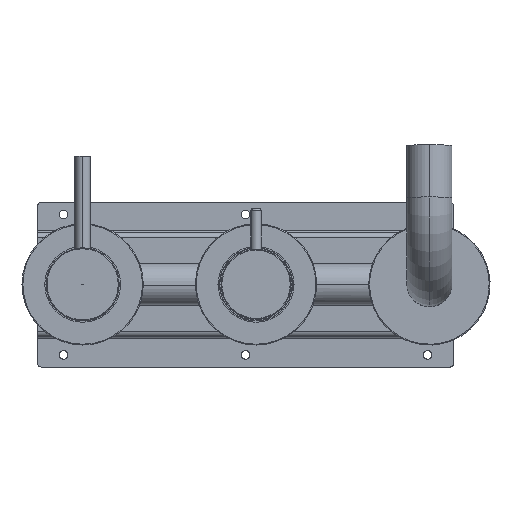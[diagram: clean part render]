
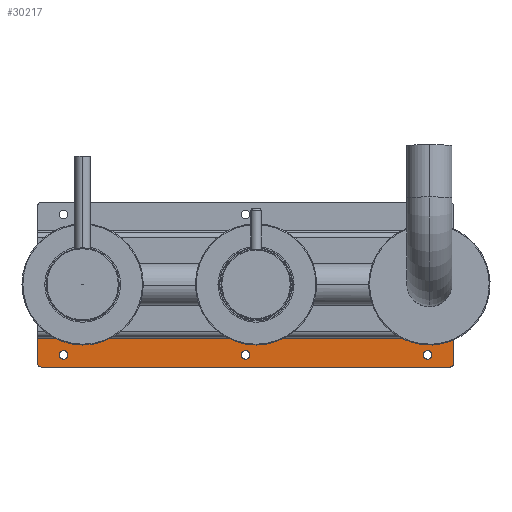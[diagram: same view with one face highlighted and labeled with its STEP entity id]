
A CAD part, top view. The second image highlights one B-rep face of the part: STEP entity #30217.
In plain terms, the highlighted planar face has unit normal (0, 0, 1).
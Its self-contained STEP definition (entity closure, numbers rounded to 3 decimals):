
#19 = ORIENTED_EDGE ( 'NONE', *, *, #3967, .F. ) ;
#1323 = FACE_OUTER_BOUND ( 'NONE', #7823, .T. ) ;
#1647 = CARTESIAN_POINT ( 'NONE',  ( -120., -45.5, -11. ) ) ;
#1711 = CARTESIAN_POINT ( 'NONE',  ( 120., -31., -11. ) ) ;
#2236 = DIRECTION ( 'NONE',  ( -1., 0., 0. ) ) ;
#2295 = DIRECTION ( 'NONE',  ( 1., 0., 0. ) ) ;
#3077 = VERTEX_POINT ( 'NONE', #25078 ) ;
#3355 = CARTESIAN_POINT ( 'NONE',  ( -118., -45.5, -11. ) ) ;
#3967 = EDGE_CURVE ( 'NONE', #21945, #42494, #16475, .T. ) ;
#4398 = EDGE_CURVE ( 'NONE', #44297, #15440, #10618, .T. ) ;
#4958 = AXIS2_PLACEMENT_3D ( 'NONE', #5080, #18503, #32336 ) ;
#5080 = CARTESIAN_POINT ( 'NONE',  ( 105., -40.5, -11. ) ) ;
#6646 = DIRECTION ( 'NONE',  ( 0., 0., 1. ) ) ;
#7258 = CARTESIAN_POINT ( 'NONE',  ( -120., 0., -11. ) ) ;
#7589 = EDGE_CURVE ( 'NONE', #21945, #41713, #41752, .T. ) ;
#7823 = EDGE_LOOP ( 'NONE', ( #19965, #25443, #13884, #9562, #31179, #19 ) ) ;
#7909 = VECTOR ( 'NONE', #28300, 1000. ) ;
#9562 = ORIENTED_EDGE ( 'NONE', *, *, #10346, .T. ) ;
#9934 = DIRECTION ( 'NONE',  ( 0., 0., 1. ) ) ;
#9940 = EDGE_CURVE ( 'NONE', #40404, #42494, #28525, .T. ) ;
#9997 = VECTOR ( 'NONE', #10661, 1000. ) ;
#10185 = AXIS2_PLACEMENT_3D ( 'NONE', #26117, #16293, #29952 ) ;
#10329 = DIRECTION ( 'NONE',  ( 1., 0., 0. ) ) ;
#10346 = EDGE_CURVE ( 'NONE', #21512, #40404, #36246, .T. ) ;
#10385 = ORIENTED_EDGE ( 'NONE', *, *, #13439, .F. ) ;
#10437 = CARTESIAN_POINT ( 'NONE',  ( -105., -40.5, -11. ) ) ;
#10618 = CIRCLE ( 'NONE', #13509, 2.5 ) ;
#10643 = CARTESIAN_POINT ( 'NONE',  ( -2.5, -40.5, -11. ) ) ;
#10661 = DIRECTION ( 'NONE',  ( 0., -1., 0. ) ) ;
#10814 = EDGE_CURVE ( 'NONE', #28570, #36099, #40597, .T. ) ;
#11579 = ORIENTED_EDGE ( 'NONE', *, *, #20487, .F. ) ;
#12651 = CARTESIAN_POINT ( 'NONE',  ( 0., 0., -11. ) ) ;
#12821 = CARTESIAN_POINT ( 'NONE',  ( -107.5, -40.5, -11. ) ) ;
#13439 = EDGE_CURVE ( 'NONE', #35938, #34169, #17268, .T. ) ;
#13509 = AXIS2_PLACEMENT_3D ( 'NONE', #13676, #20958, #27544 ) ;
#13676 = CARTESIAN_POINT ( 'NONE',  ( 0., -40.5, -11. ) ) ;
#13884 = ORIENTED_EDGE ( 'NONE', *, *, #31200, .T. ) ;
#14083 = DIRECTION ( 'NONE',  ( 0., 0., 1. ) ) ;
#14582 = VECTOR ( 'NONE', #10329, 1000. ) ;
#15307 = DIRECTION ( 'NONE',  ( 1., 0., 0. ) ) ;
#15440 = VERTEX_POINT ( 'NONE', #10643 ) ;
#15594 = EDGE_CURVE ( 'NONE', #15440, #44297, #33400, .T. ) ;
#15827 = VECTOR ( 'NONE', #2295, 1000. ) ;
#16271 = DIRECTION ( 'NONE',  ( 0., 0., -1. ) ) ;
#16293 = DIRECTION ( 'NONE',  ( 0., 0., 1. ) ) ;
#16475 = LINE ( 'NONE', #23767, #14582 ) ;
#16727 = AXIS2_PLACEMENT_3D ( 'NONE', #3355, #41712, #23831 ) ;
#17268 = CIRCLE ( 'NONE', #4958, 2.5 ) ;
#17398 = CARTESIAN_POINT ( 'NONE',  ( 120., 0., -11. ) ) ;
#18157 = FACE_BOUND ( 'NONE', #29049, .T. ) ;
#18370 = FACE_BOUND ( 'NONE', #35448, .T. ) ;
#18503 = DIRECTION ( 'NONE',  ( 0., 0., 1. ) ) ;
#19560 = CARTESIAN_POINT ( 'NONE',  ( 0., -47.5, -11. ) ) ;
#19646 = DIRECTION ( 'NONE',  ( -1., 0., 0. ) ) ;
#19965 = ORIENTED_EDGE ( 'NONE', *, *, #7589, .T. ) ;
#20487 = EDGE_CURVE ( 'NONE', #34169, #35938, #44137, .T. ) ;
#20958 = DIRECTION ( 'NONE',  ( 0., 0., 1. ) ) ;
#21512 = VERTEX_POINT ( 'NONE', #37218 ) ;
#21687 = DIRECTION ( 'NONE',  ( 0., 0., 1. ) ) ;
#21945 = VERTEX_POINT ( 'NONE', #30142 ) ;
#22439 = CARTESIAN_POINT ( 'NONE',  ( -102.5, -40.5, -11. ) ) ;
#22732 = LINE ( 'NONE', #19560, #15827 ) ;
#23286 = CIRCLE ( 'NONE', #32720, 2.5 ) ;
#23767 = CARTESIAN_POINT ( 'NONE',  ( -120., -31., -11. ) ) ;
#23830 = DIRECTION ( 'NONE',  ( 1., 0., 0. ) ) ;
#23831 = DIRECTION ( 'NONE',  ( -1., 0., 0. ) ) ;
#23883 = EDGE_CURVE ( 'NONE', #36099, #28570, #23286, .T. ) ;
#24053 = CARTESIAN_POINT ( 'NONE',  ( 105., -40.5, -11. ) ) ;
#24661 = ORIENTED_EDGE ( 'NONE', *, *, #23883, .F. ) ;
#24678 = AXIS2_PLACEMENT_3D ( 'NONE', #10437, #14083, #41757 ) ;
#24740 = CARTESIAN_POINT ( 'NONE',  ( 107.5, -40.5, -11. ) ) ;
#25078 = CARTESIAN_POINT ( 'NONE',  ( -118., -47.5, -11. ) ) ;
#25443 = ORIENTED_EDGE ( 'NONE', *, *, #43718, .T. ) ;
#25535 = CARTESIAN_POINT ( 'NONE',  ( 2.5, -40.5, -11. ) ) ;
#25648 = PLANE ( 'NONE',  #26635 ) ;
#26069 = AXIS2_PLACEMENT_3D ( 'NONE', #24053, #9934, #23830 ) ;
#26117 = CARTESIAN_POINT ( 'NONE',  ( 0., -40.5, -11. ) ) ;
#26635 = AXIS2_PLACEMENT_3D ( 'NONE', #12651, #16271, #2236 ) ;
#27544 = DIRECTION ( 'NONE',  ( 1., 0., 0. ) ) ;
#28300 = DIRECTION ( 'NONE',  ( 0., 1., 0. ) ) ;
#28525 = LINE ( 'NONE', #17398, #7909 ) ;
#28570 = VERTEX_POINT ( 'NONE', #22439 ) ;
#29049 = EDGE_LOOP ( 'NONE', ( #11579, #10385 ) ) ;
#29952 = DIRECTION ( 'NONE',  ( 1., 0., 0. ) ) ;
#30142 = CARTESIAN_POINT ( 'NONE',  ( -120., -31., -11. ) ) ;
#30217 = ADVANCED_FACE ( 'NONE', ( #18157, #18370, #32215, #1323 ), #25648, .F. ) ;
#31179 = ORIENTED_EDGE ( 'NONE', *, *, #9940, .T. ) ;
#31200 = EDGE_CURVE ( 'NONE', #3077, #21512, #22732, .T. ) ;
#32099 = CARTESIAN_POINT ( 'NONE',  ( 120., -45.5, -11. ) ) ;
#32166 = CARTESIAN_POINT ( 'NONE',  ( 102.5, -40.5, -11. ) ) ;
#32215 = FACE_BOUND ( 'NONE', #43334, .T. ) ;
#32336 = DIRECTION ( 'NONE',  ( 1., 0., 0. ) ) ;
#32720 = AXIS2_PLACEMENT_3D ( 'NONE', #42977, #21687, #15307 ) ;
#33400 = CIRCLE ( 'NONE', #10185, 2.5 ) ;
#34169 = VERTEX_POINT ( 'NONE', #24740 ) ;
#34775 = ORIENTED_EDGE ( 'NONE', *, *, #10814, .F. ) ;
#35448 = EDGE_LOOP ( 'NONE', ( #34775, #24661 ) ) ;
#35938 = VERTEX_POINT ( 'NONE', #32166 ) ;
#36099 = VERTEX_POINT ( 'NONE', #12821 ) ;
#36246 = CIRCLE ( 'NONE', #36950, 2. ) ;
#36309 = CIRCLE ( 'NONE', #16727, 2. ) ;
#36761 = ORIENTED_EDGE ( 'NONE', *, *, #4398, .F. ) ;
#36950 = AXIS2_PLACEMENT_3D ( 'NONE', #40259, #6646, #19646 ) ;
#37218 = CARTESIAN_POINT ( 'NONE',  ( 118., -47.5, -11. ) ) ;
#40259 = CARTESIAN_POINT ( 'NONE',  ( 118., -45.5, -11. ) ) ;
#40404 = VERTEX_POINT ( 'NONE', #32099 ) ;
#40597 = CIRCLE ( 'NONE', #24678, 2.5 ) ;
#41712 = DIRECTION ( 'NONE',  ( 0., 0., 1. ) ) ;
#41713 = VERTEX_POINT ( 'NONE', #1647 ) ;
#41752 = LINE ( 'NONE', #7258, #9997 ) ;
#41757 = DIRECTION ( 'NONE',  ( 1., 0., 0. ) ) ;
#42494 = VERTEX_POINT ( 'NONE', #1711 ) ;
#42977 = CARTESIAN_POINT ( 'NONE',  ( -105., -40.5, -11. ) ) ;
#43334 = EDGE_LOOP ( 'NONE', ( #36761, #43587 ) ) ;
#43587 = ORIENTED_EDGE ( 'NONE', *, *, #15594, .F. ) ;
#43718 = EDGE_CURVE ( 'NONE', #41713, #3077, #36309, .T. ) ;
#44137 = CIRCLE ( 'NONE', #26069, 2.5 ) ;
#44297 = VERTEX_POINT ( 'NONE', #25535 ) ;
